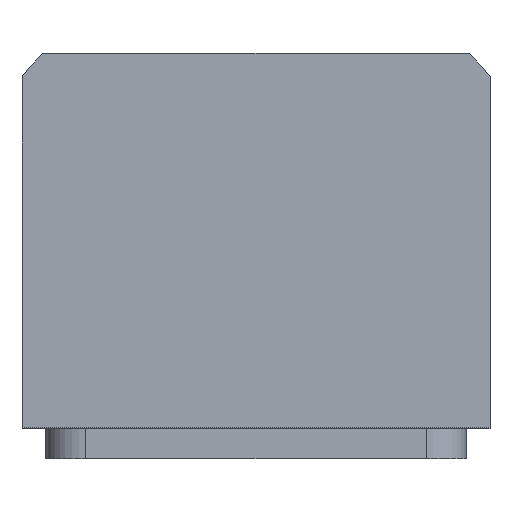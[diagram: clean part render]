
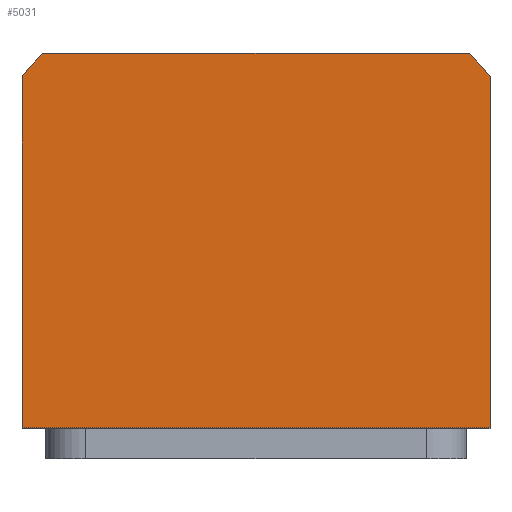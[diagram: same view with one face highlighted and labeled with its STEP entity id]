
A CAD part, top view. The second image highlights one B-rep face of the part: STEP entity #5031.
In plain terms, the highlighted planar face has unit normal (0, 0, 1).
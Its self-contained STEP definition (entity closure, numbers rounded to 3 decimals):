
#2306=PLANE('',#10524);
#2590=FACE_OUTER_BOUND('',#5694,.T.);
#3229=LINE('',#15359,#4014);
#3250=LINE('',#15986,#4035);
#3263=LINE('',#16035,#4048);
#3275=LINE('',#16064,#4060);
#4014=VECTOR('',#10998,1.);
#4035=VECTOR('',#11123,1.);
#4048=VECTOR('',#11172,1.);
#4060=VECTOR('',#11198,1.);
#5031=ADVANCED_FACE('',(#2590),#2306,.T.);
#5694=EDGE_LOOP('',(#6467,#6468,#6469,#6470,#6471,#6472));
#6467=ORIENTED_EDGE('',*,*,#9343,.T.);
#6468=ORIENTED_EDGE('',*,*,#9250,.T.);
#6469=ORIENTED_EDGE('',*,*,#9350,.T.);
#6470=ORIENTED_EDGE('',*,*,#9367,.T.);
#6471=ORIENTED_EDGE('',*,*,#9347,.T.);
#6472=ORIENTED_EDGE('',*,*,#9384,.T.);
#8428=VERTEX_POINT('',#15329);
#8443=VERTEX_POINT('',#15358);
#8527=VERTEX_POINT('',#15982);
#8529=VERTEX_POINT('',#15989);
#8532=VERTEX_POINT('',#15994);
#8534=VERTEX_POINT('',#16000);
#9250=EDGE_CURVE('',#8428,#8443,#3229,.T.);
#9343=EDGE_CURVE('',#8527,#8428,#3250,.T.);
#9347=EDGE_CURVE('',#8529,#8532,#10335,.T.);
#9350=EDGE_CURVE('',#8443,#8534,#10337,.T.);
#9367=EDGE_CURVE('',#8534,#8529,#3263,.T.);
#9384=EDGE_CURVE('',#8532,#8527,#3275,.T.);
#10335=CIRCLE('',#10500,44.5);
#10337=CIRCLE('',#10503,44.5);
#10500=AXIS2_PLACEMENT_3D('',#15995,#11130,#11131);
#10503=AXIS2_PLACEMENT_3D('',#16001,#11137,#11138);
#10524=AXIS2_PLACEMENT_3D('',#16077,#11208,#11209);
#10998=DIRECTION('',(0.,1.,0.));
#11123=DIRECTION('',(1.,0.,0.));
#11130=DIRECTION('',(0.,0.,1.));
#11131=DIRECTION('',(1.,0.,0.));
#11137=DIRECTION('',(0.,0.,1.));
#11138=DIRECTION('',(1.,0.,0.));
#11172=DIRECTION('',(-1.,0.,0.));
#11198=DIRECTION('',(0.,-1.,0.));
#11208=DIRECTION('',(0.,0.,1.));
#11209=DIRECTION('',(-1.,0.,0.));
#15329=CARTESIAN_POINT('',(35.,-25.,52.));
#15358=CARTESIAN_POINT('',(35.,27.482,52.));
#15359=CARTESIAN_POINT('',(35.,27.482,52.));
#15982=CARTESIAN_POINT('',(-35.,-25.,52.));
#15986=CARTESIAN_POINT('',(35.,-25.,52.));
#15989=CARTESIAN_POINT('',(-31.926,31.,52.));
#15994=CARTESIAN_POINT('',(-35.,27.482,52.));
#15995=CARTESIAN_POINT('',(0.,0.,52.));
#16000=CARTESIAN_POINT('',(31.926,31.,52.));
#16001=CARTESIAN_POINT('',(0.,0.,52.));
#16035=CARTESIAN_POINT('',(-31.926,31.,52.));
#16064=CARTESIAN_POINT('',(-35.,-25.,52.));
#16077=CARTESIAN_POINT('',(0.,0.,52.));
